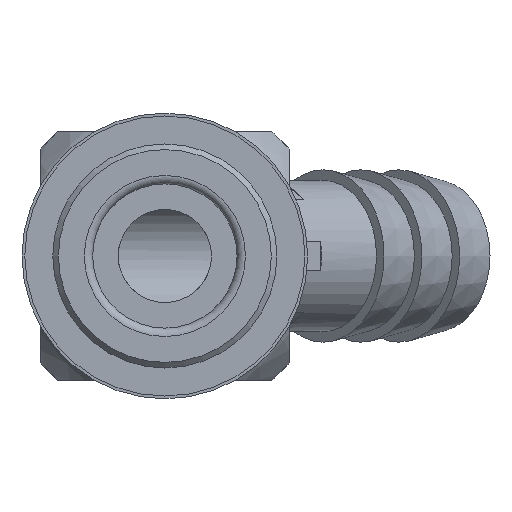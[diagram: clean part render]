
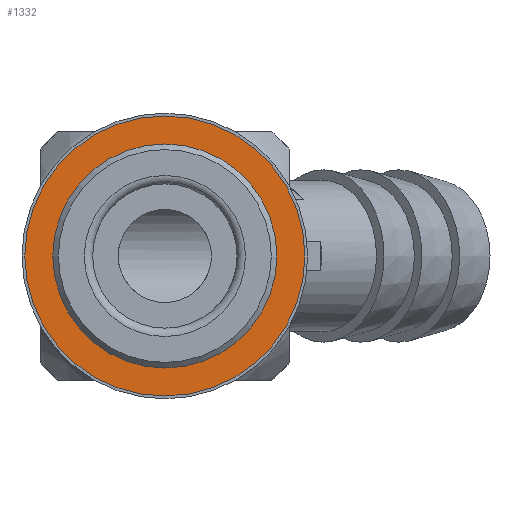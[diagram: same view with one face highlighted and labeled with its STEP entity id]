
A CAD part, left-side view. The second image highlights one B-rep face of the part: STEP entity #1332.
In plain terms, the highlighted planar face has unit normal (-1, 0, 0).
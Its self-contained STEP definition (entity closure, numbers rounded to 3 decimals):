
#198=PLANE('',#1481);
#304=CIRCLE('',#1480,9.04);
#305=CIRCLE('',#1482,11.3);
#448=ORIENTED_EDGE('',*,*,#823,.F.);
#449=ORIENTED_EDGE('',*,*,#822,.T.);
#822=EDGE_CURVE('',#1001,#1001,#304,.T.);
#823=EDGE_CURVE('',#1002,#1002,#305,.T.);
#1001=VERTEX_POINT('',#2209);
#1002=VERTEX_POINT('',#2212);
#1093=EDGE_LOOP('',(#448));
#1094=EDGE_LOOP('',(#449));
#1210=FACE_BOUND('',#1093,.T.);
#1211=FACE_BOUND('',#1094,.T.);
#1332=ADVANCED_FACE('',(#1210,#1211),#198,.F.);
#1480=AXIS2_PLACEMENT_3D('',#2208,#1748,#1749);
#1481=AXIS2_PLACEMENT_3D('',#2210,#1750,#1751);
#1482=AXIS2_PLACEMENT_3D('',#2211,#1752,#1753);
#1748=DIRECTION('',(1.,0.,0.));
#1749=DIRECTION('',(0.,0.,-1.));
#1750=DIRECTION('',(1.,0.,0.));
#1751=DIRECTION('',(0.,0.,-1.));
#1752=DIRECTION('',(1.,0.,0.));
#1753=DIRECTION('',(0.,0.,-1.));
#2208=CARTESIAN_POINT('',(0.,0.,0.));
#2209=CARTESIAN_POINT('',(0.,0.,-9.04));
#2210=CARTESIAN_POINT('',(0.,9.04,0.));
#2211=CARTESIAN_POINT('',(0.,0.,0.));
#2212=CARTESIAN_POINT('',(0.,0.,-11.3));
